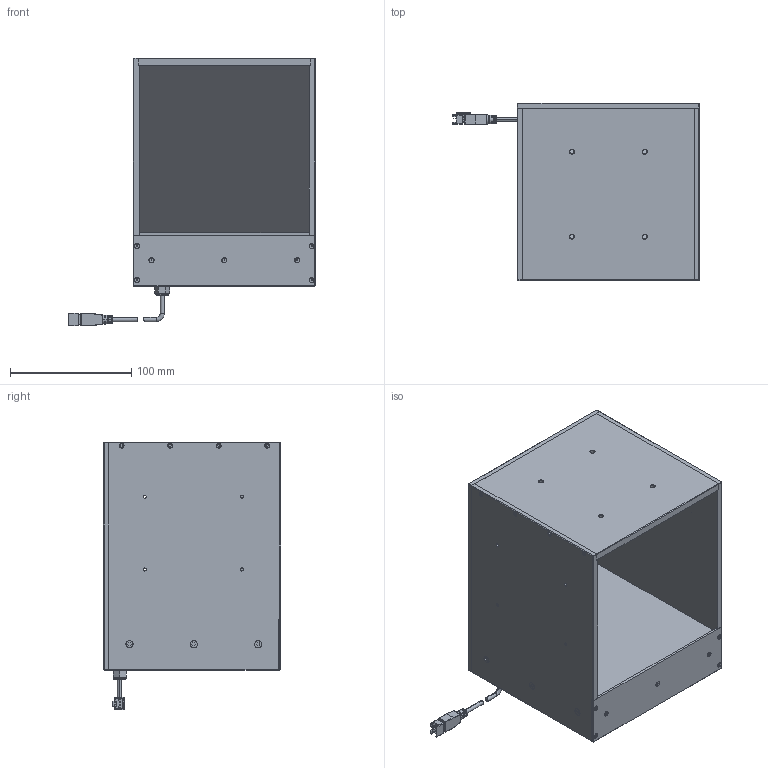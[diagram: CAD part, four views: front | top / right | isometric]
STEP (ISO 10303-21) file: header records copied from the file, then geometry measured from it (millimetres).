
FILE_DESCRIPTION (( 'STEP AP203' ), '1' );
FILE_NAME ('CRT-COL140-¼òÒ×3DÍ¼.STEP', '2022-01-07T06:28:00', ( 'Admin' ), ( '' ), 'SwSTEP 2.0', 'SolidWorks 2018', '' );
FILE_SCHEMA (( 'CONFIG_CONTROL_DESIGN' ));
Length unit declared in the file: millimetre
Products named in the file (1): CRT-COL140-潠眢3D芞
Bounding box: 203.25 x 146 x 220.73 mm (x, y, z)
Surface area: 278959.7 mm2 (no closed solid volume)
Topology: 0 solids, 71 shells, 744 faces, 2332 edges, 1631 vertices
Faces by surface type: plane 509, cylinder 173, cone 50, bspline 12
Entity records: 26084 total; most frequent: CARTESIAN_POINT 5435, DIRECTION 4283, ORIENTED_EDGE 3740, EDGE_CURVE 2332, LINE 1729, VECTOR 1729, VERTEX_POINT 1631, AXIS2_PLACEMENT_3D 1277
